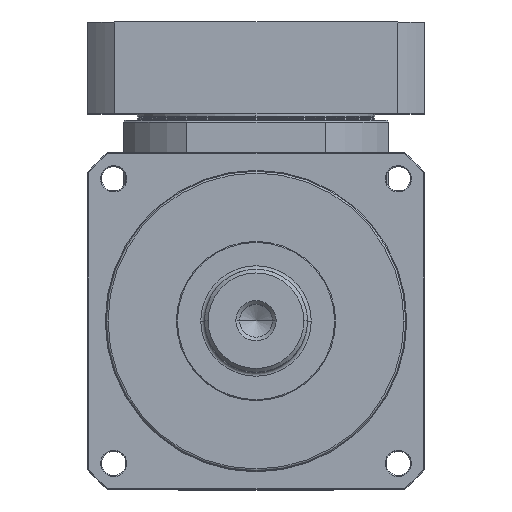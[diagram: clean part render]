
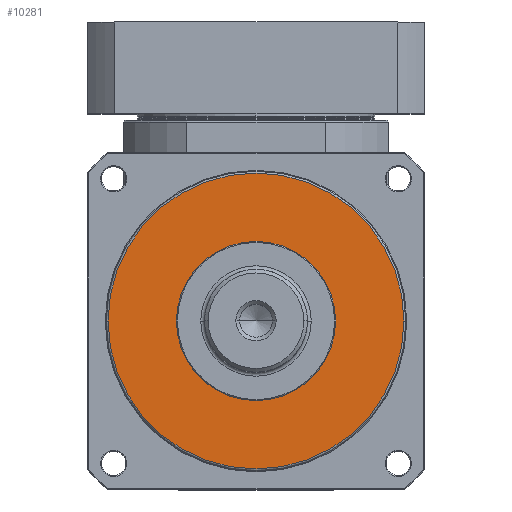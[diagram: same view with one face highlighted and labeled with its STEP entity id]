
A CAD part, top view. The second image highlights one B-rep face of the part: STEP entity #10281.
In plain terms, the highlighted planar face has unit normal (0, 0, 1).
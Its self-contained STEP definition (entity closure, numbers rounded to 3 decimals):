
#179 = CIRCLE ( 'NONE', #5199, 42.5 ) ;
#450 = AXIS2_PLACEMENT_3D ( 'NONE', #8068, #4705, #6380 ) ;
#563 = EDGE_CURVE ( 'NONE', #8821, #7310, #4118, .T. ) ;
#721 = AXIS2_PLACEMENT_3D ( 'NONE', #1110, #2740, #10090 ) ;
#1110 = CARTESIAN_POINT ( 'NONE',  ( 0., 0., 35. ) ) ;
#1228 = DIRECTION ( 'NONE',  ( 0., 0., 1. ) ) ;
#1449 = DIRECTION ( 'NONE',  ( 1., 0., 0. ) ) ;
#1605 = ORIENTED_EDGE ( 'NONE', *, *, #7968, .T. ) ;
#1690 = AXIS2_PLACEMENT_3D ( 'NONE', #6141, #4518, #7716 ) ;
#1881 = EDGE_CURVE ( 'NONE', #6825, #2281, #179, .T. ) ;
#2132 = EDGE_CURVE ( 'NONE', #2281, #6825, #6236, .T. ) ;
#2281 = VERTEX_POINT ( 'NONE', #9601 ) ;
#2488 = FACE_BOUND ( 'NONE', #5053, .T. ) ;
#2740 = DIRECTION ( 'NONE',  ( 0., 0., 1. ) ) ;
#3232 = CARTESIAN_POINT ( 'NONE',  ( 42.5, 0., 35. ) ) ;
#3456 = CARTESIAN_POINT ( 'NONE',  ( 0., 0., 35. ) ) ;
#3575 = CARTESIAN_POINT ( 'NONE',  ( 79., 0., 35. ) ) ;
#4118 = CIRCLE ( 'NONE', #1690, 79. ) ;
#4379 = DIRECTION ( 'NONE',  ( 1., 0., 0. ) ) ;
#4518 = DIRECTION ( 'NONE',  ( 0., 0., 1. ) ) ;
#4705 = DIRECTION ( 'NONE',  ( 0., 0., 1. ) ) ;
#5053 = EDGE_LOOP ( 'NONE', ( #9876, #8975 ) ) ;
#5199 = AXIS2_PLACEMENT_3D ( 'NONE', #8750, #1228, #1449 ) ;
#5718 = ORIENTED_EDGE ( 'NONE', *, *, #563, .T. ) ;
#5787 = FACE_OUTER_BOUND ( 'NONE', #7276, .T. ) ;
#6141 = CARTESIAN_POINT ( 'NONE',  ( 0., 0., 35. ) ) ;
#6236 = CIRCLE ( 'NONE', #721, 42.5 ) ;
#6380 = DIRECTION ( 'NONE',  ( 1., 0., 0. ) ) ;
#6680 = CIRCLE ( 'NONE', #450, 79. ) ;
#6810 = PLANE ( 'NONE',  #8473 ) ;
#6825 = VERTEX_POINT ( 'NONE', #3232 ) ;
#7276 = EDGE_LOOP ( 'NONE', ( #5718, #1605 ) ) ;
#7310 = VERTEX_POINT ( 'NONE', #8409 ) ;
#7716 = DIRECTION ( 'NONE',  ( 1., 0., 0. ) ) ;
#7968 = EDGE_CURVE ( 'NONE', #7310, #8821, #6680, .T. ) ;
#8068 = CARTESIAN_POINT ( 'NONE',  ( 0., 0., 35. ) ) ;
#8409 = CARTESIAN_POINT ( 'NONE',  ( -79., 0., 35. ) ) ;
#8473 = AXIS2_PLACEMENT_3D ( 'NONE', #3456, #9249, #4379 ) ;
#8750 = CARTESIAN_POINT ( 'NONE',  ( 0., 0., 35. ) ) ;
#8821 = VERTEX_POINT ( 'NONE', #3575 ) ;
#8975 = ORIENTED_EDGE ( 'NONE', *, *, #1881, .F. ) ;
#9249 = DIRECTION ( 'NONE',  ( 0., 0., 1. ) ) ;
#9601 = CARTESIAN_POINT ( 'NONE',  ( -42.5, 0., 35. ) ) ;
#9876 = ORIENTED_EDGE ( 'NONE', *, *, #2132, .F. ) ;
#10090 = DIRECTION ( 'NONE',  ( 1., 0., 0. ) ) ;
#10281 = ADVANCED_FACE ( 'NONE', ( #2488, #5787 ), #6810, .T. ) ;
